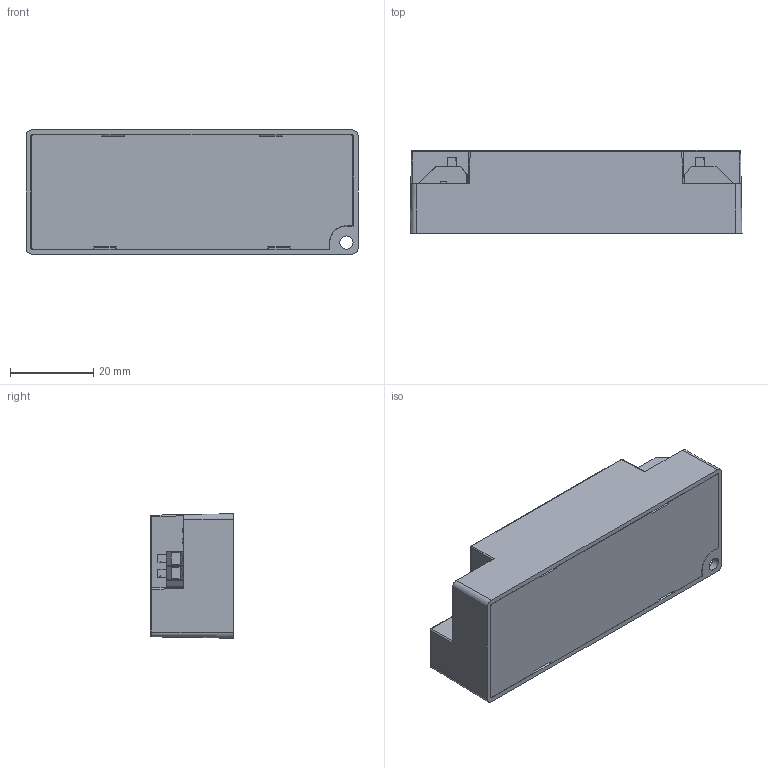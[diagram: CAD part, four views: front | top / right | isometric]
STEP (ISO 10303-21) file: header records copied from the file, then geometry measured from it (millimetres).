
FILE_DESCRIPTION((''),'2;1');
FILE_NAME('KT-161_ASM','2025-12-01T14:56:13',('Administrator'),(''),'CREO PARAMETRIC BY PTC INC, 2022484','CREO PARAMETRIC BY PTC INC, 2022484','');
FILE_SCHEMA(('CONFIG_CONTROL_DESIGN','SHAPE_APPEARANCE_LAYERS_GROUPS'));
Products named in the file (6): KT-161_SG; KT-161_XG; KT-161_PCBA; BM_2; WAFO_250_2P; KT-161_ASM
Assembly tree (6 placements, depth 2):
  KT-161_ASM
    KT-161_SG
    KT-161_XG
    KT-161_PCBA
    BM_2
    WAFO_250_2P  x2
Bounding box: 80 x 20 x 30 mm (x, y, z)
Volume: 14024.9 mm3; surface area: 25285.9 mm2
Topology: 10 solids, 10 shells, 3043 faces, 8457 edges, 5600 vertices
Faces by surface type: plane 2903, extrusion 62, cylinder 50, cone 14, sphere 6, torus 6, bspline 2
Entity records: 117368 total; most frequent: CARTESIAN_POINT 17507, ORIENTED_EDGE 16482, DIRECTION 14062, EDGE_CURVE 8241, VECTOR 8048, LINE 7986, PRESENTATION_STYLE_ASSIGNMENT 7899, STYLED_ITEM 7898
